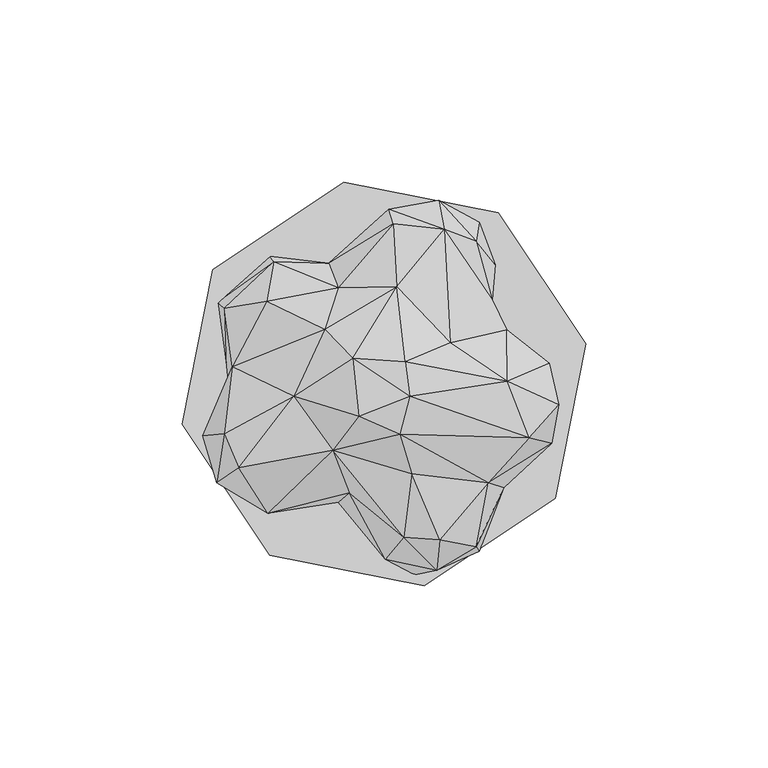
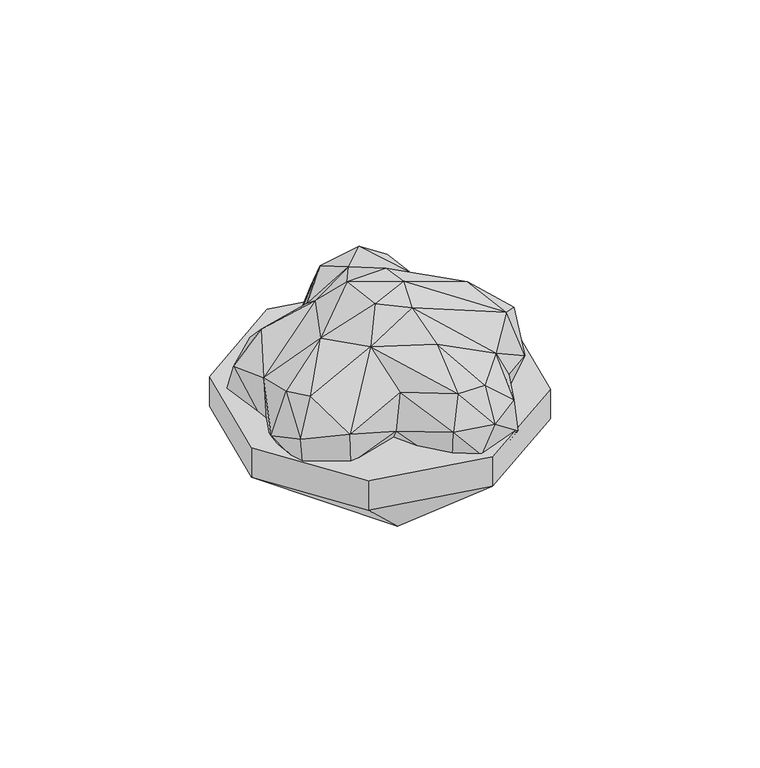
"""IFC4 building model written with IfcOpenShell, lengths in millimetres: geographic element geometry, Enscape AssetDefinition - Bowl 007 Strawberry : Enscape AssetDefinition - Bowl 007 Strawberry."""

from ifc_helpers import new_model, si_unit, origin, place, context, project, spatial, triangles, source, transform, mapped, element, save


def geographic_element_ae85cb65(model_context):
    return source(origin(), model_context, "Body", "Tessellation", [
        triangles([(29.4818442, 23.6991212, 59.5195774), (25.8318966, 44.8959469, 47.5695301), (30.321732, 33.1953325, 47.0543817), (2.8297561, 6.864498, 31.3102982), (10.0234128, 38.6384392, 31.8915172), (18.3218456, 33.1038024, 32.5848207), (14.7868155, 50.9375204, 47.4990538), (25.094101, 39.7186875, 62.5118321), (2.2628602, 46.1467563, 40.8510812), (1.0036084, 48.54527, 52.7600881), (2.274426, 44.514593, 63.0160936), (16.2566363, 42.9497085, 66.9764805), (-12.8362498, 26.8940388, 63.7920728), (-8.8080203, 7.5884182, 82.7484012), (-16.5018384, 15.5106721, 73.0076894), (3.2060818, 27.2806795, 72.8307198), (5.5884914, 6.6072922, 83.81199), (17.8691468, 11.9103774, 74.6310732), (45.1626866, 6.2198664, 56.6097214), (33.4255147, 15.4230786, 58.0282985), (6.7809071, -2.8499825, 83.8027609), (33.5767455, 1.2367233, 71.9333591), (47.6554578, -5.1944702, 60.4279431), (39.6075706, -14.2392698, 66.8329982), (28.3446997, -26.6503628, 61.7724695), (4.0629529, -13.2225146, 80.449786), (28.3003302, 16.4332096, 41.6735328), (45.2024462, -0.2450279, 40.8458626), (32.6341727, -27.9215447, 52.3503293), (45.7708753, -15.8021548, 47.9708637), (-0.679831, -9.5078862, 31.0604701), (34.6649331, -0.4053863, 33.1493438), (26.2109001, -20.6481083, 34.0444995), (14.6403343, -45.0238688, 31.4681419), (10.0051499, -33.6892045, 26.8596705), (0.2520075, -46.069331, 36.2867091), (23.3610809, -39.5242999, 32.2019202), (33.7412499, -24.3929288, 42.502234), (-12.8029488, -31.8984686, 47.730753), (-11.2454823, -25.2866719, 37.8343617), (8.2248364, -51.8982993, 43.0596991), (25.9397162, -45.3759503, 42.6624577), (0.089155, -47.5617589, 52.4563548), (14.21115, -50.646091, 52.5570436), (15.0819248, -42.276948, 62.9422972), (5.135079, -41.610973, 62.5167282), (7.3343548, -24.1140918, 71.2013998), (25.0918346, -44.1775951, 54.6238915), (-14.3192602, -17.6674672, 73.8356412), (-7.2158926, -8.3794764, 83.0178887), (-40.1069315, -22.4808703, 65.7594808), (-41.9367344, 5.2152351, 57.1576894), (-25.0188808, -2.9007768, 72.110256), (-50.0110326, -13.6701447, 47.9622659), (-44.0702887, -13.1543263, 63.5006116), (-44.1001788, 21.3217522, 52.757749), (-46.2532042, -26.6174183, 53.1374633), (-42.0793265, -14.3677254, 34.6082255), (-31.775084, -23.2925281, 31.3947157), (-44.7665671, -25.8148896, 40.8567358), (-15.3095772, -10.1657551, 31.8741128), (-34.1886812, -2.9948376, 32.0616149), (-31.1231957, -33.8653248, 42.5128484), (-9.7796731, -29.3194404, 60.9197781), (-32.2464261, -35.0262664, 55.3913319), (-28.5587128, 20.5456323, 24.5878297), (-3.9640502, 29.3611711, 35.5429613), (-29.8272083, 33.227514, 34.1263372), (-46.091241, 22.9892331, 42.3261138), (-43.147439, 20.0964614, 33.1194651), (-43.4730096, 0.4680296, 39.7830368), (-31.5909973, 35.647161, 43.1445231), (-15.4926374, 33.7325999, 47.181813), (-13.1332236, 26.8384213, 33.3873289), (-30.5007568, 34.1406464, 51.8485703), (-32.524827, 23.1716529, 62.5691414), (10.744006, -54.9068502, 31.3451184), (46.7085816, -30.8760655, 31.3451184), (10.744006, -54.9068502, 43.2700423), (19.4348988, -12.6524038, 2.3135996), (20.9800898, 12.2605184, 1.8890561), (-31.6791119, -46.4683755, 31.3451184), (-4.9075181, 23.7785904, 2.3135996), (-7.0149356, -22.8132151, 1.8890561), (55.1470245, 11.5470593, 31.3451184), (31.1162171, 47.511603, 31.3451184), (-11.3068282, 55.950046, 31.3451184), (-23.6162411, 7.2551213, 1.8890561), (-55.7098762, -10.5038034, 43.2700423), (-55.7098762, -10.5038034, 31.3451184), (-47.2713924, 31.9192885, 31.3451184), (-47.2713924, 31.9192885, 43.2700423), (-11.3068282, 55.950046, 43.2700423), (-31.6791119, -46.4683755, 43.2700423), (31.1162171, 47.511603, 43.2700423), (55.1470245, 11.5470593, 43.2700423), (46.7085816, -30.8760655, 43.2700423)], [[86, 96, 85], [85, 96, 97], [97, 96, 95], [86, 95, 96], [94, 97, 95], [95, 92, 94], [92, 89, 94], [95, 93, 92], [87, 93, 95], [92, 93, 87], [87, 95, 86], [92, 87, 91], [87, 88, 91], [90, 89, 92], [90, 92, 91], [91, 88, 90], [82, 94, 89], [82, 89, 90], [90, 88, 84], [90, 84, 82], [87, 83, 88], [84, 88, 83], [86, 83, 87], [86, 81, 83], [81, 86, 85], [80, 84, 83], [81, 80, 83], [80, 77, 84], [82, 84, 77], [94, 79, 97], [79, 94, 82], [79, 82, 77], [80, 78, 77], [78, 80, 81], [78, 97, 79], [78, 81, 85], [85, 97, 78], [78, 79, 77], [76, 75, 56], [76, 13, 75], [75, 73, 72], [13, 73, 75], [73, 67, 74], [74, 68, 73], [72, 73, 68], [75, 72, 69], [69, 72, 68], [56, 75, 69], [56, 69, 71], [69, 70, 71], [69, 68, 70], [66, 67, 4], [74, 66, 68], [70, 68, 66], [74, 67, 66], [66, 4, 61], [62, 71, 70], [66, 61, 62], [66, 62, 70], [65, 49, 51], [64, 49, 65], [64, 65, 39], [40, 39, 63], [39, 65, 63], [61, 59, 62], [40, 63, 59], [59, 61, 40], [71, 62, 58], [62, 59, 58], [58, 59, 60], [65, 60, 63], [59, 63, 60], [65, 51, 57], [65, 57, 60], [54, 58, 60], [54, 71, 58], [57, 54, 60], [55, 54, 57], [55, 57, 51], [52, 71, 54], [52, 76, 56], [52, 54, 55], [56, 71, 52], [15, 13, 76], [15, 76, 52], [52, 55, 53], [53, 51, 49], [15, 52, 53], [51, 53, 55], [15, 53, 14], [49, 50, 53], [50, 14, 53], [49, 26, 50], [49, 47, 26], [25, 26, 47], [29, 25, 48], [25, 47, 45], [25, 45, 48], [46, 47, 49], [45, 47, 46], [64, 46, 49], [43, 46, 64], [39, 43, 64], [44, 45, 46], [45, 44, 48], [43, 44, 46], [42, 48, 44], [29, 48, 42], [29, 42, 38], [44, 43, 41], [42, 44, 41], [43, 36, 41], [36, 39, 40], [43, 39, 36], [42, 41, 34], [34, 41, 36], [37, 38, 42], [42, 34, 37], [36, 40, 35], [35, 34, 36], [35, 37, 34], [40, 31, 35], [4, 31, 61], [61, 31, 40], [27, 32, 4], [4, 32, 31], [35, 33, 37], [32, 33, 31], [37, 33, 38], [31, 33, 35], [30, 29, 38], [33, 30, 38], [29, 30, 25], [28, 30, 33], [28, 32, 27], [28, 33, 32], [28, 27, 19], [19, 23, 28], [28, 23, 30], [23, 24, 30], [24, 26, 25], [24, 25, 30], [21, 14, 50], [26, 21, 50], [24, 21, 26], [17, 14, 21], [23, 22, 24], [23, 19, 22], [24, 22, 21], [22, 17, 21], [19, 20, 22], [20, 19, 27], [1, 20, 27], [22, 18, 17], [1, 18, 20], [22, 20, 18], [18, 16, 17], [15, 16, 13], [16, 14, 17], [14, 16, 15], [73, 13, 11], [16, 11, 13], [18, 12, 16], [1, 12, 18], [12, 11, 16], [12, 10, 11], [73, 11, 10], [73, 10, 9], [73, 9, 67], [67, 5, 4], [5, 67, 9], [12, 7, 10], [7, 5, 9], [10, 7, 9], [12, 1, 8], [12, 8, 7], [7, 2, 5], [8, 2, 7], [6, 27, 4], [2, 6, 5], [5, 6, 4], [8, 3, 2], [8, 1, 3], [2, 3, 6], [3, 27, 6], [3, 1, 27]]),
    ])


if __name__ == "__main__":
    model = new_model("IFC4")
    model_context = context("Model", 3, world=origin())
    ifc_project = project(units=[si_unit("LENGTHUNIT", "METRE", prefix="MILLI")], contexts=[model_context])
    site = spatial("IfcSite", under=ifc_project)
    building = spatial("IfcBuilding", under=site)
    placement = place(None, origin())
    geographic_element_shape = geographic_element_ae85cb65(model_context)
    element("IfcGeographicElement", 1, ObjectType="Enscape AssetDefinition - Bowl 007 Strawberry : Enscape AssetDefinition - Bowl 007 Strawberry", at=placement, inside=building, context=model_context, shape_type="MappedRepresentation", body=[
        mapped(geographic_element_shape, transform((0.0, 0.0, 0.0), x_axis=(1.0, 0.0, 0.0), y_axis=(0.0, 1.0, 0.0), z_axis=(0.0, 0.0, 1.0))),
    ])
    save(model, "model.ifc")
